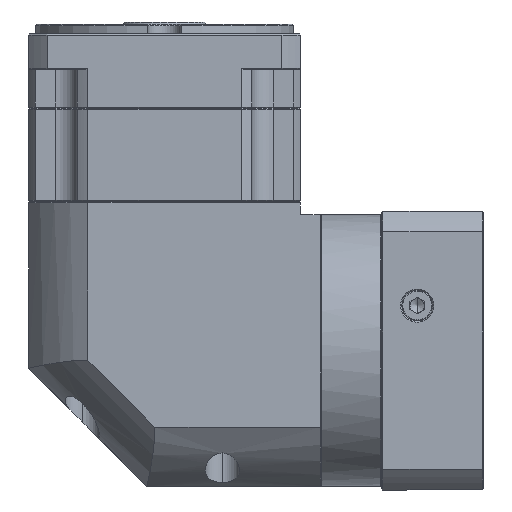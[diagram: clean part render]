
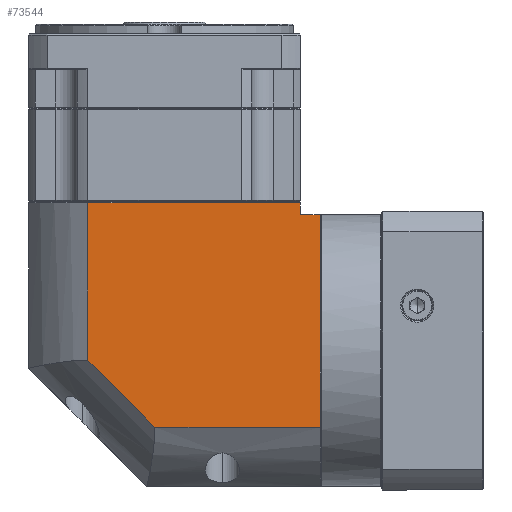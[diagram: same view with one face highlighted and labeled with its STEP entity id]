
A CAD part, left-side view. The second image highlights one B-rep face of the part: STEP entity #73544.
In plain terms, the highlighted planar face has unit normal (-1, 0, 0).
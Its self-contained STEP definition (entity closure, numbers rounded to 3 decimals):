
#778 = CARTESIAN_POINT ( 'NONE',  ( -244.861, -100.857, 108.058 ) ) ;
#7358 = EDGE_CURVE ( 'NONE', #50890, #14537, #25458, .T. ) ;
#9725 = CARTESIAN_POINT ( 'NONE',  ( -244.861, 22.543, 6.658 ) ) ;
#11740 = AXIS2_PLACEMENT_3D ( 'NONE', #101754, #24016, #114767 ) ;
#13742 = LINE ( 'NONE', #40998, #82784 ) ;
#14537 = VERTEX_POINT ( 'NONE', #150216 ) ;
#23230 = CARTESIAN_POINT ( 'NONE',  ( -244.861, 22.543, 101.558 ) ) ;
#24016 = DIRECTION ( 'NONE',  ( 1., 0., 0. ) ) ;
#25458 = LINE ( 'NONE', #147087, #90418 ) ;
#27939 = EDGE_CURVE ( 'NONE', #148879, #64857, #45028, .T. ) ;
#31849 = VECTOR ( 'NONE', #127585, 1000. ) ;
#33477 = CARTESIAN_POINT ( 'NONE',  ( -244.861, -2.557, 34.996 ) ) ;
#35392 = VERTEX_POINT ( 'NONE', #165256 ) ;
#40998 = CARTESIAN_POINT ( 'NONE',  ( -244.861, -30.896, 6.658 ) ) ;
#44539 = VECTOR ( 'NONE', #136817, 1000. ) ;
#45028 = LINE ( 'NONE', #130061, #144512 ) ;
#45541 = CARTESIAN_POINT ( 'NONE',  ( -244.861, -30.896, 6.658 ) ) ;
#47518 = ORIENTED_EDGE ( 'NONE', *, *, #130767, .F. ) ;
#48571 = LINE ( 'NONE', #97592, #44539 ) ;
#50890 = VERTEX_POINT ( 'NONE', #114359 ) ;
#56273 = DIRECTION ( 'NONE',  ( 0., 1., 0. ) ) ;
#59639 = ORIENTED_EDGE ( 'NONE', *, *, #7358, .T. ) ;
#64857 = VERTEX_POINT ( 'NONE', #121513 ) ;
#69045 = ORIENTED_EDGE ( 'NONE', *, *, #120388, .F. ) ;
#73207 = ORIENTED_EDGE ( 'NONE', *, *, #100008, .F. ) ;
#73544 = ADVANCED_FACE ( 'NONE', ( #120715 ), #127254, .F. ) ;
#75247 = ORIENTED_EDGE ( 'NONE', *, *, #90645, .T. ) ;
#80119 = DIRECTION ( 'NONE',  ( 0., 0., 1. ) ) ;
#82784 = VECTOR ( 'NONE', #131787, 1000. ) ;
#87508 = DIRECTION ( 'NONE',  ( 0., 1., 0. ) ) ;
#90418 = VECTOR ( 'NONE', #56273, 1000. ) ;
#90645 = EDGE_CURVE ( 'NONE', #14537, #35392, #48571, .T. ) ;
#93478 = LINE ( 'NONE', #9725, #162442 ) ;
#93736 = ORIENTED_EDGE ( 'NONE', *, *, #27939, .F. ) ;
#97592 = CARTESIAN_POINT ( 'NONE',  ( -244.861, -92.457, -18.442 ) ) ;
#99869 = VECTOR ( 'NONE', #117079, 1000. ) ;
#100008 = EDGE_CURVE ( 'NONE', #165123, #139348, #93478, .T. ) ;
#101754 = CARTESIAN_POINT ( 'NONE',  ( -244.861, 22.543, 108.058 ) ) ;
#114359 = CARTESIAN_POINT ( 'NONE',  ( -244.861, -100.857, 96.558 ) ) ;
#114767 = DIRECTION ( 'NONE',  ( 0., 1., 0. ) ) ;
#117079 = DIRECTION ( 'NONE',  ( 0., 0., -1. ) ) ;
#120388 = EDGE_CURVE ( 'NONE', #139348, #148879, #13742, .T. ) ;
#120715 = FACE_OUTER_BOUND ( 'NONE', #161929, .T. ) ;
#120840 = EDGE_CURVE ( 'NONE', #64857, #35392, #165773, .T. ) ;
#121513 = CARTESIAN_POINT ( 'NONE',  ( -244.861, -2.557, 101.558 ) ) ;
#127254 = PLANE ( 'NONE',  #11740 ) ;
#127585 = DIRECTION ( 'NONE',  ( 0., -1., 0. ) ) ;
#129259 = CARTESIAN_POINT ( 'NONE',  ( -244.861, -100.857, 6.658 ) ) ;
#130061 = CARTESIAN_POINT ( 'NONE',  ( -244.861, -2.557, 108.058 ) ) ;
#130767 = EDGE_CURVE ( 'NONE', #50890, #165123, #164790, .T. ) ;
#131787 = DIRECTION ( 'NONE',  ( 0., 0.707, 0.707 ) ) ;
#136817 = DIRECTION ( 'NONE',  ( 0., 0., 1. ) ) ;
#139348 = VERTEX_POINT ( 'NONE', #45541 ) ;
#144512 = VECTOR ( 'NONE', #80119, 1000. ) ;
#147087 = CARTESIAN_POINT ( 'NONE',  ( -244.861, -92.457, 96.558 ) ) ;
#148879 = VERTEX_POINT ( 'NONE', #33477 ) ;
#150216 = CARTESIAN_POINT ( 'NONE',  ( -244.861, -92.457, 96.558 ) ) ;
#161929 = EDGE_LOOP ( 'NONE', ( #93736, #69045, #73207, #47518, #59639, #75247, #167265 ) ) ;
#162442 = VECTOR ( 'NONE', #87508, 1000. ) ;
#164790 = LINE ( 'NONE', #778, #99869 ) ;
#165123 = VERTEX_POINT ( 'NONE', #129259 ) ;
#165256 = CARTESIAN_POINT ( 'NONE',  ( -244.861, -92.457, 101.558 ) ) ;
#165773 = LINE ( 'NONE', #23230, #31849 ) ;
#167265 = ORIENTED_EDGE ( 'NONE', *, *, #120840, .F. ) ;
